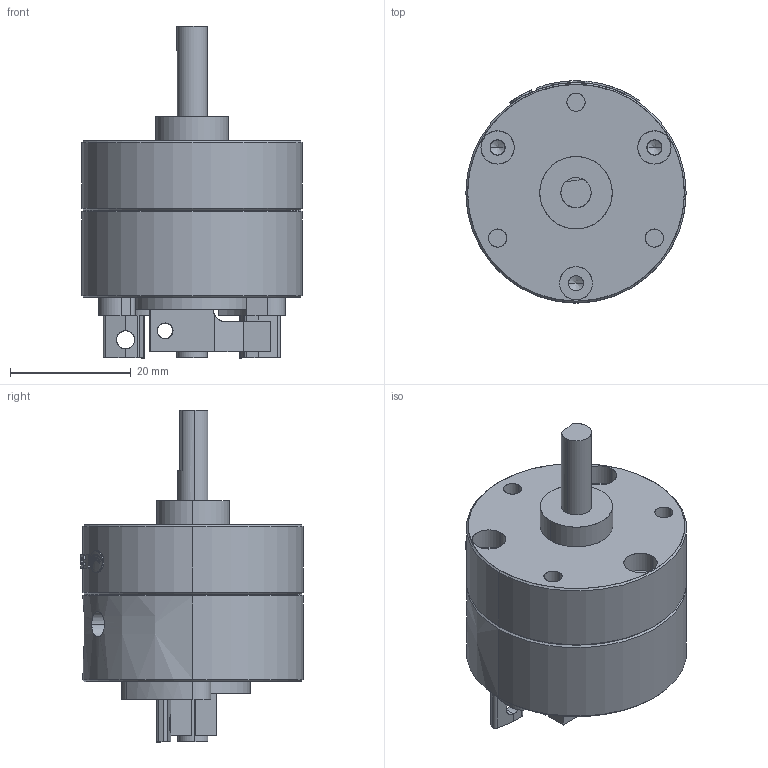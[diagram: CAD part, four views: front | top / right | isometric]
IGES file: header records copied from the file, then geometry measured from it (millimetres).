
Start section: SolidWorks IGES file using analytic representation for surfaces
Global section: file name: C:\Users\Chieh_Lu\Dropbox\¤u§@«Ç\PRO\PROA3S\PROA3S-#-#\PROA3S-#-#.IGS; native system: SolidWorks 2014; preprocessor: SolidWorks 2014; author: Chieh_Lu; date: 150801.211332; units: millimetre
Bounding box: 36.5 x 36.8 x 55 mm (x, y, z)
Surface area: 11553.5 mm2 (no closed solid volume)
Topology: 0 solids, 0 shells, 341 faces, 5161 edges, 5151 vertices
Faces by surface type: revolution 174, bspline 167
